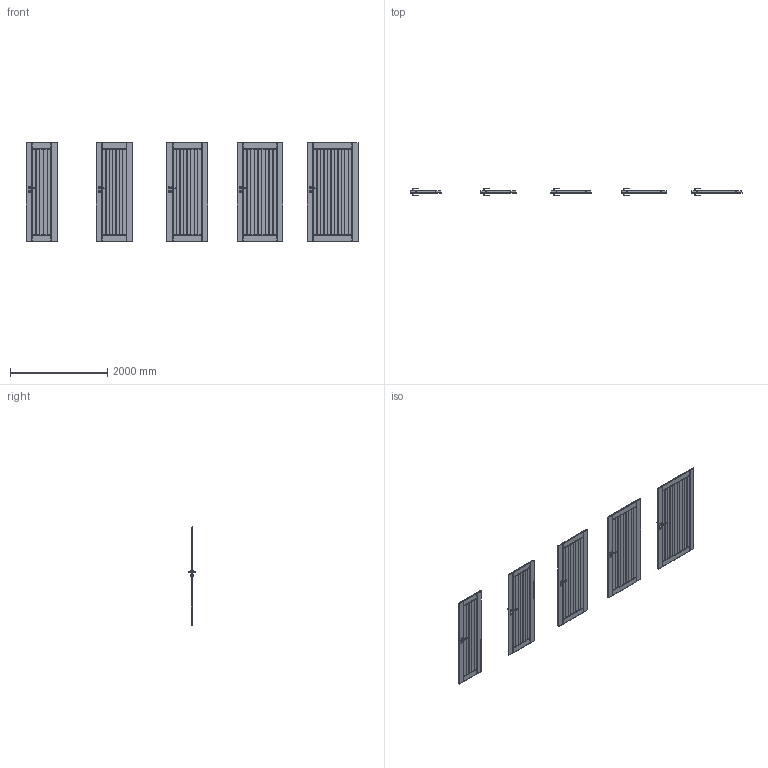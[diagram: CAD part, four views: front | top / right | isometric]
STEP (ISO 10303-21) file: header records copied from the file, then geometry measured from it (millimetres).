
FILE_DESCRIPTION(/* description */ (''),/* implementation_level */ '2;1');
FILE_NAME(/* name */ '049849_A_2-Skrzydło OSLO model 1_ polska norma _PN__ przylgowe..stp',/* time_stamp */ '2024-09-03T11:19:13+02:00',/* author */ (''),/* organization */ (''),/* preprocessor_version */ 'ST-DEVELOPER v16',/* originating_system */ 'SIEMENS PLM Software NX 11.0',/* authorisation */ '');
FILE_SCHEMA (('AUTOMOTIVE_DESIGN { 1 0 10303 214 3 1 1 1 }'));
Products named in the file (1): bkni2A047F3F87wg
Bounding box: 6844 x 153.13 x 2030 mm (x, y, z)
Volume: 327904679 mm3; surface area: 18619461.1 mm2
Topology: 25 solids, 25 shells, 2570 faces, 6650 edges, 4040 vertices
Faces by surface type: plane 1110, cylinder 880, bspline 160, sphere 140, cone 140, torus 140
Entity records: 87916 total; most frequent: CARTESIAN_POINT 27008, ORIENTED_EDGE 13020, DIRECTION 12372, EDGE_CURVE 6510, AXIS2_PLACEMENT_3D 4451, VERTEX_POINT 4040, LINE 3470, VECTOR 3470
